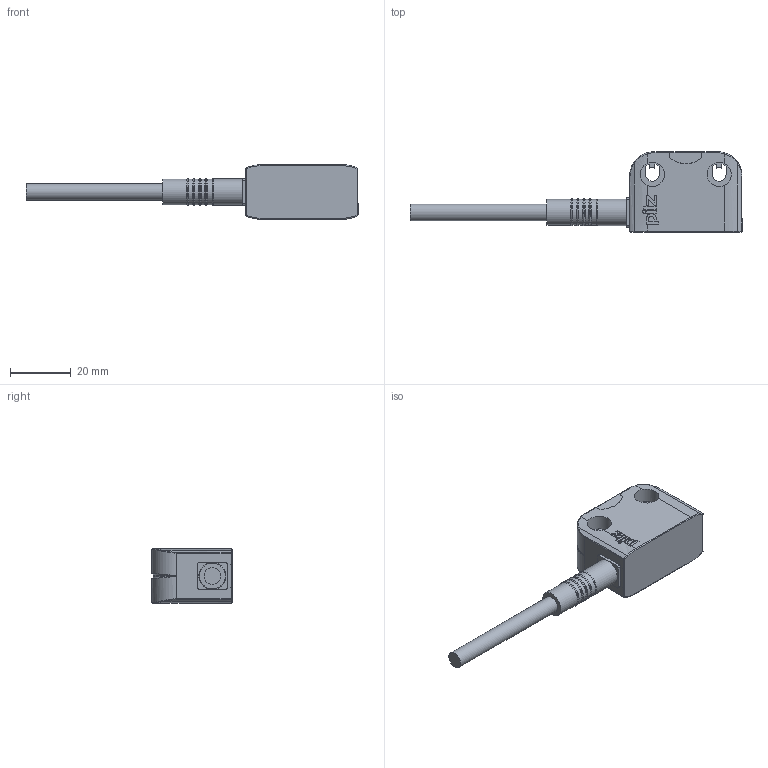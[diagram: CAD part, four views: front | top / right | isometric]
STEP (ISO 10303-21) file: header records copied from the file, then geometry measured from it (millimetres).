
FILE_DESCRIPTION((''),'2;1');
FILE_NAME('E:\Vault Daten\Projektordner\Sensoren\PSEN cs smart\Kundendaten\H302848-A_S_37x26.4x18mm.stp','2011-09-20T09:34:03',('pschmucki'),(''),'Autodesk Inventor 2010','Autodesk Inventor 2010','');
FILE_SCHEMA(('CONFIG_CONTROL_DESIGN'));
Length unit declared in the file: millimetre
Products named in the file (1): H302848_PSENcss_Sensor_Konturvereinfachung_1
Bounding box: 109.3 x 26.41 x 18.01 mm (x, y, z)
Volume: 18198.6 mm3; surface area: 6280.7 mm2
Topology: 1 solids, 6 shells, 313 faces, 787 edges, 491 vertices
Faces by surface type: plane 134, cylinder 83, bspline 56, torus 30, cone 6, sphere 4
Full cylindrical faces by diameter (mm): 1.134 x2, 5.5 x1, 8 x2, 8.5 x5, 8.7 x1
Entity records: 10335 total; most frequent: CARTESIAN_POINT 3079, ORIENTED_EDGE 1504, DIRECTION 1467, EDGE_CURVE 752, AXIS2_PLACEMENT_3D 515, VERTEX_POINT 483, VECTOR 437, LINE 437
